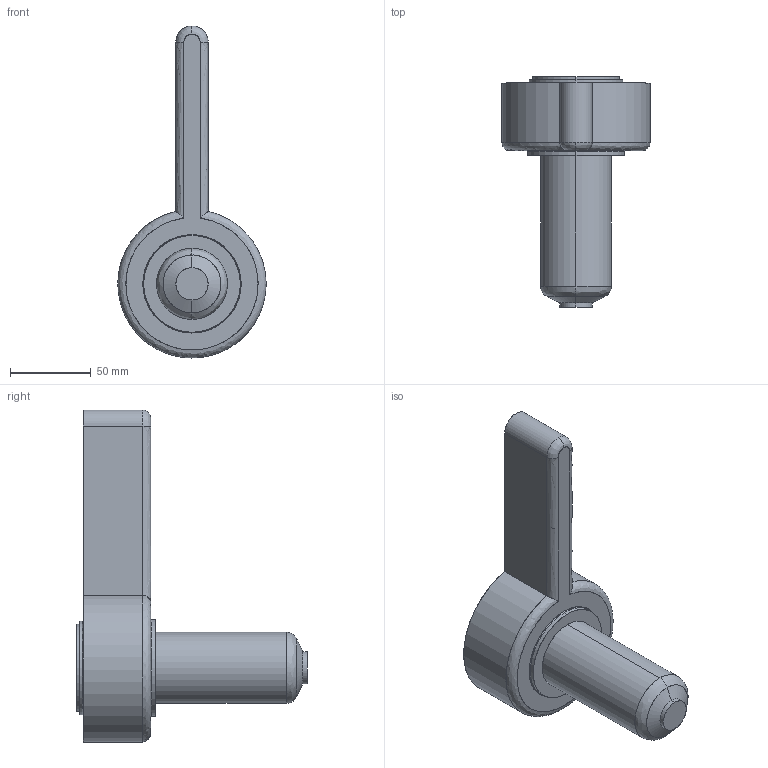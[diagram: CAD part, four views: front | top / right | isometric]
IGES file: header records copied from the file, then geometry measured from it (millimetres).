
Start section: SolidWorks IGES file using analytic representation for surfaces
Global section: file name: C:\Documents and Settings\ws-20\Desktop\TEM\Sede UGER6604-S-A C-94 L-141.IGS; native system: SolidWorks 2012; preprocessor: SolidWorks 2012; author: ws-20; date: 120417.105457; units: millimetre
Bounding box: 91.99 x 143.24 x 206 mm (x, y, z)
Surface area: 51286.7 mm2 (no closed solid volume)
Topology: 0 solids, 0 shells, 34 faces, 788 edges, 788 vertices
Faces by surface type: revolution 21, bspline 13
